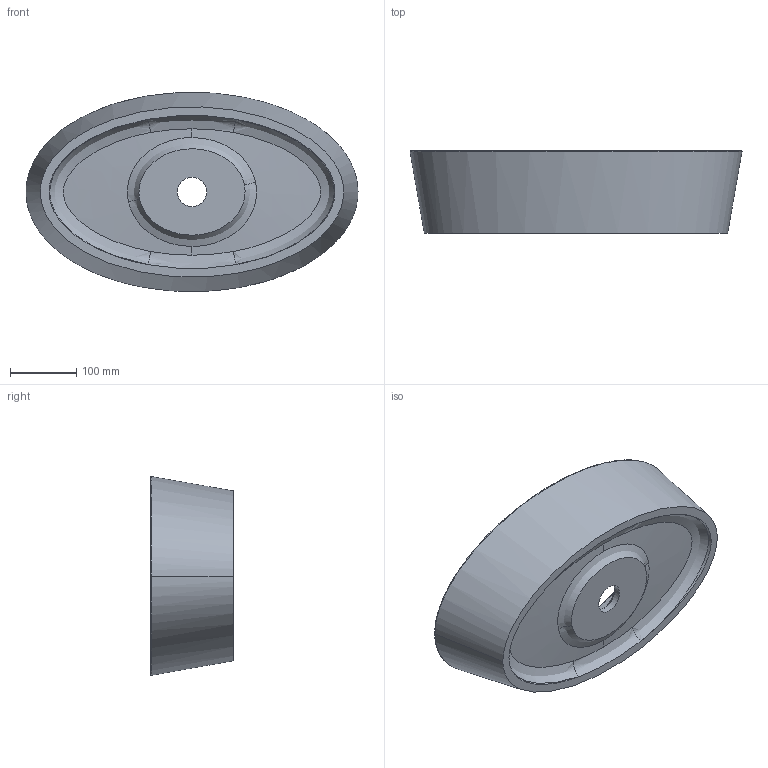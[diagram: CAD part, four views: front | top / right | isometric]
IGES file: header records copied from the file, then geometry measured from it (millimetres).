
Start section: SolidWorks IGES file using analytic representation for surfaces
Global section: file name: C:\Users\katarzynawe\Desktop\WB SIENA.IGS; native system: SolidWorks 2014; preprocessor: SolidWorks 2014; author: katarzynawe; date: 160209.121436; units: millimetre
Bounding box: 499.99 x 124 x 299.84 mm (x, y, z)
Volume: 3289398.4 mm3; surface area: 454698.3 mm2
Topology: 1 solids, 1 shells, 33 faces, 84 edges, 52 vertices
Faces by surface type: bspline 20, revolution 10, plane 3
